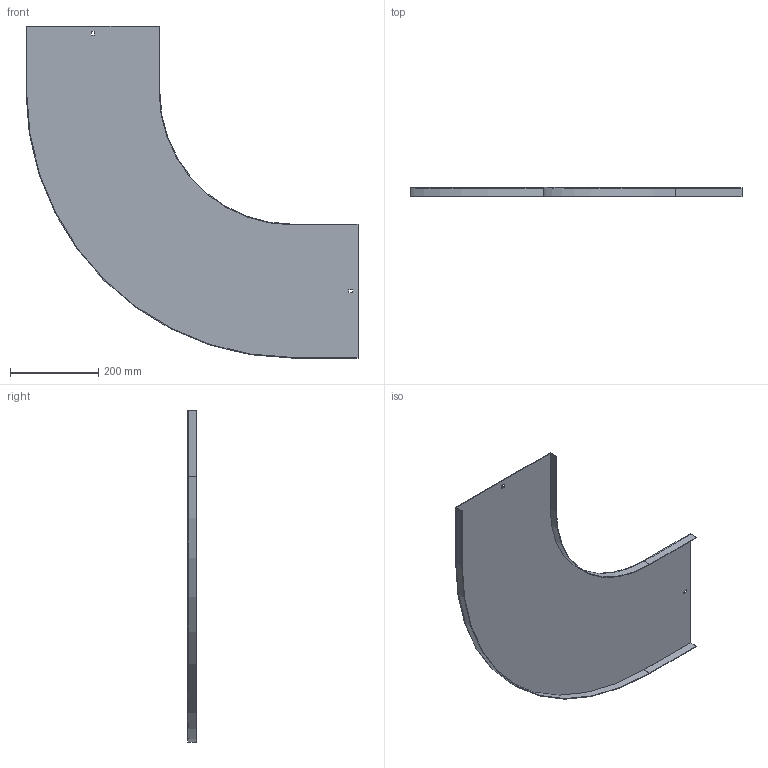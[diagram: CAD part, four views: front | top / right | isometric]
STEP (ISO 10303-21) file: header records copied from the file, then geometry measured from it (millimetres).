
FILE_DESCRIPTION (( 'STEP AP214' ), '1' );
FILE_NAME ('A2_10N3R300.step', '2025-02-21T10:53:48', ( '' ), ( '' ), 'SwSTEP 2.0', 'SolidWorks 2023', '' );
FILE_SCHEMA (( 'AUTOMOTIVE_DESIGN' ));
Length unit declared in the file: millimetre
Products named in the file (1): A2_10N3R300
Bounding box: 751.5 x 20 x 751.5 mm (x, y, z)
Volume: 513322.3 mm3; surface area: 688563.3 mm2
Topology: 1 solids, 1 shells, 26 faces, 72 edges, 48 vertices
Faces by surface type: plane 22, cylinder 4
Entity records: 855 total; most frequent: CARTESIAN_POINT 147, ORIENTED_EDGE 144, DIRECTION 134, EDGE_CURVE 72, VECTOR 64, LINE 64, VERTEX_POINT 48, AXIS2_PLACEMENT_3D 35
